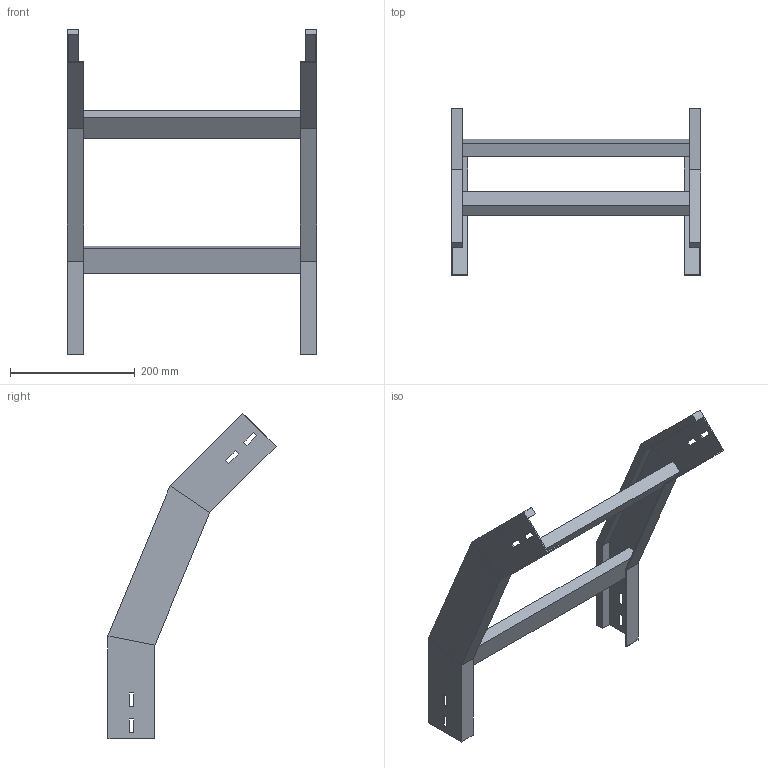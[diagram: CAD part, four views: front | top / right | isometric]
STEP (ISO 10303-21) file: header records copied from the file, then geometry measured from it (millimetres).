
FILE_DESCRIPTION (( 'STEP AP214' ), '1' );
FILE_NAME ('A2_34B3C400.step', '2025-02-21T14:54:57', ( '' ), ( '' ), 'SwSTEP 2.0', 'SolidWorks 2023', '' );
FILE_SCHEMA (( 'AUTOMOTIVE_DESIGN' ));
Length unit declared in the file: millimetre
Products named in the file (3): TRAVERSINO_400; LONGH.DISCESA_45°_H75_R300; A2_34B3C400
Assembly tree (5 placements, depth 2):
  A2_34B3C400
    LONGH.DISCESA_45°_H75_R300  x2
    TRAVERSINO_400  x3
Bounding box: 400 x 269.08 x 521.59 mm (x, y, z)
Volume: 1405448.1 mm3; surface area: 411582.9 mm2
Topology: 5 solids, 5 shells, 102 faces, 244 edges, 152 vertices
Faces by surface type: plane 102
Entity records: 1480 total; most frequent: CARTESIAN_POINT 244, ORIENTED_EDGE 232, DIRECTION 228, VECTOR 116, EDGE_CURVE 116, LINE 116, VERTEX_POINT 72, EDGE_LOOP 56
